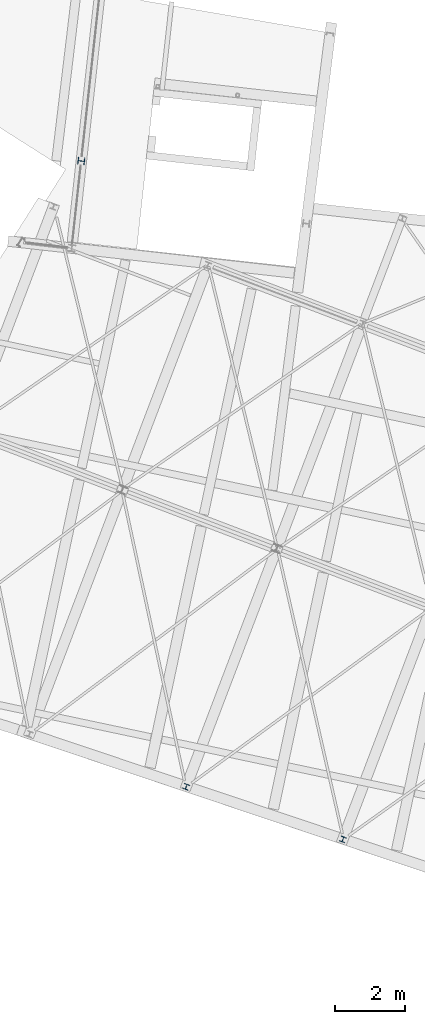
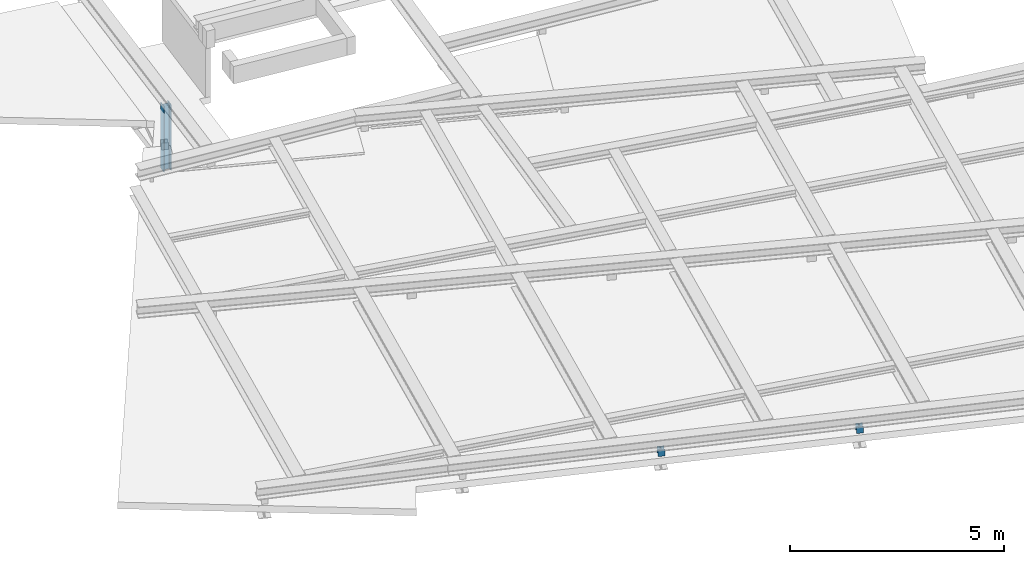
# One storey, part 1 of 21: 3 columns.
"""IFC2X3 building model written with IfcOpenShell, lengths in millimetres."""

from ifc_helpers import new_model, entity, si_unit, converted_unit, derived_unit, direction, frame, frame_2d, origin, place, context, subcontext, project, spatial, i_section, extrude, source, transform, mapped, material, type_object, type_shapes, element, save


model = new_model("IFC2X3")

# Units and contexts
model_context = context("Model", 3, precision=0.01, world=origin(), true_north=direction((6.123233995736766e-17, 1.0)))
body_context = subcontext(model_context, "Body", "Model", "MODEL_VIEW")
ifc_project = project(units=[si_unit("LENGTHUNIT", "METRE", prefix="MILLI"), converted_unit("PLANEANGLEUNIT", "DEGREE", entity("IfcPlaneAngleMeasure", 0.017453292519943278), si_unit("PLANEANGLEUNIT", "RADIAN"), dimensions=[0, 0, 0, 0, 0, 0, 0]), si_unit("AREAUNIT", "SQUARE_METRE"), derived_unit("THERMALTRANSMITTANCEUNIT", [(si_unit("MASSUNIT", "GRAM", prefix="KILO"), 1), (si_unit("THERMODYNAMICTEMPERATUREUNIT", "KELVIN"), -1), (si_unit("TIMEUNIT", "SECOND"), -3)])], contexts=[model_context])

# Site, building, storey
site_placement = place(None, frame((-72937.88054949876, 11621.45624098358, 0.0), z_axis=(0.0, 0.0, 1.0), x_axis=(0.9346418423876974, -0.35559053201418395, 0.0)))
site = spatial("IfcSite", under=ifc_project, at=site_placement, Name="Default", CompositionType="ELEMENT")
building_placement = place(site_placement, origin())
building = spatial("IfcBuilding", under=site, at=building_placement, CompositionType="ELEMENT")
storey_placement = place(building_placement, frame((0.0, 0.0, 4250.0)))
storey = spatial("IfcBuildingStorey", under=building, at=storey_placement, Name="01 eerste verdieping", CompositionType="ELEMENT", Elevation=4250.0)

# Columns
ifc_material = material(Name="metaal_staal_generiek")
column_type_1 = type_object("IfcColumnType", Name="DIE16", PredefinedType="COLUMN", material=ifc_material)
shared_shape_1 = source(origin(), body_context, "Body", "SweptSolid", [
    extrude(i_section(OverallWidth=160.0, OverallDepth=152.0, WebThickness=5.999999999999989, FlangeThickness=9.000000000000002, FilletRadius=15.0, at=frame_2d((0.0, 7.105427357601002e-15), x_axis=(1.0, 0.0))), frame((0.0, 0.0, 4190.0), z_axis=(0.0, 0.0, 1.0), x_axis=(-1.0, 0.0, 0.0)), (0.0, 0.0, 1.0), 190.0000000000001),
])
type_shapes(column_type_1, [shared_shape_1])
for number, where in (
    (1, (29190.0, 14768.55219420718, -4250.0)),
    (2, (24460.0, 14581.318432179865, -4250.0)),
):
    element("IfcColumn", number, at=place(storey_placement, frame(where)), inside=storey, type_object=column_type_1, material=ifc_material, Name="28.11_SCO_KolomHEA:DIE16", ObjectType="28.11_SCO_KolomHEA:DIE16", context=body_context, shape_type="MappedRepresentation", body=[
        mapped(shared_shape_1, transform((0.0, 0.0, 0.0), scale=1.0)),
    ])
column_type_2 = type_object("IfcColumnType", Name="HEA200", PredefinedType="COLUMN", material=ifc_material)
shared_shape_2 = source(origin(), body_context, "Body", "SweptSolid", [
    extrude(i_section(OverallWidth=200.00000000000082, OverallDepth=190.00000000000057, WebThickness=6.499999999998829, FlangeThickness=10.00000000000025, FilletRadius=18.0, at=frame_2d((-1.8474111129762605e-12, 1.5702994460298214e-12), x_axis=(1.0, 0.0))), frame((15279.44422966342, 30263.472175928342, 2510.0), z_axis=(0.0, 0.0, 1.0), x_axis=(-0.24176909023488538, 0.9703338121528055, 0.0)), (0.0, 0.0, 1.0), 1880.000000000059),
])
type_shapes(column_type_2, [shared_shape_2])
column_placement = place(storey_placement, frame((0.0, 0.0, -4250.0)))
element("IfcColumn", 3, at=column_placement, inside=storey, type_object=column_type_2, material=ifc_material, Name="28.11_SCO_KolomHEA:HEA200", ObjectType="28.11_SCO_KolomHEA:HEA200", context=body_context, shape_type="MappedRepresentation", body=[
    mapped(shared_shape_2, transform((0.0, 0.0, 0.0), scale=1.0)),
])

save(model, "model.ifc")
